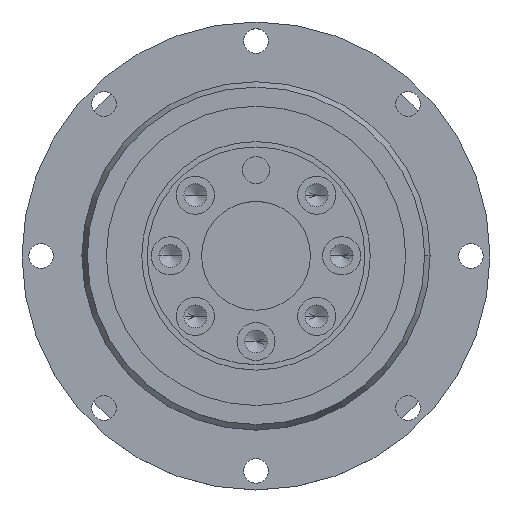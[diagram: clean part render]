
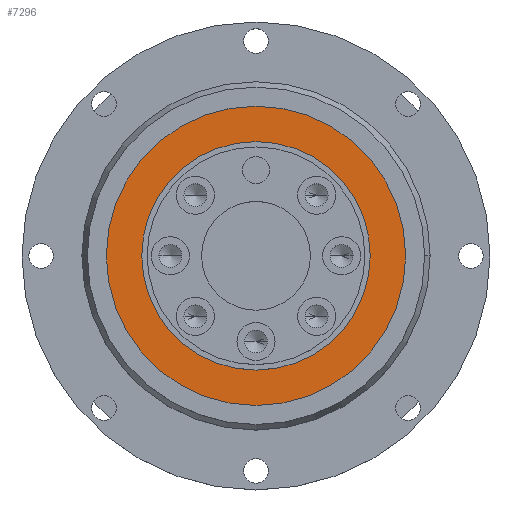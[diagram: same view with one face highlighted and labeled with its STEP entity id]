
A CAD part, top view. The second image highlights one B-rep face of the part: STEP entity #7296.
In plain terms, the highlighted planar face has unit normal (0, 0, 1).
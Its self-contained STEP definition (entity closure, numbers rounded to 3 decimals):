
#1338 = ORIENTED_EDGE ( 'NONE', *, *, #24119, .F. ) ;
#1620 = CARTESIAN_POINT ( 'NONE',  ( -27.5, 0., -0.5 ) ) ;
#1978 = CIRCLE ( 'NONE', #43564, 27.5 ) ;
#2120 = CARTESIAN_POINT ( 'NONE',  ( 0., 0., -0.5 ) ) ;
#4392 = CARTESIAN_POINT ( 'NONE',  ( 0., 0., -0.5 ) ) ;
#6081 = DIRECTION ( 'NONE',  ( -1., 0., 0. ) ) ;
#6959 = FACE_BOUND ( 'NONE', #26988, .T. ) ;
#6968 = FACE_OUTER_BOUND ( 'NONE', #10278, .T. ) ;
#7282 = AXIS2_PLACEMENT_3D ( 'NONE', #2120, #29580, #6081 ) ;
#7296 = ADVANCED_FACE ( 'NONE', ( #6959, #6968 ), #48372, .F. ) ;
#7765 = CIRCLE ( 'NONE', #43588, 27.5 ) ;
#8400 = DIRECTION ( 'NONE',  ( 1., 0., 0. ) ) ;
#8401 = CARTESIAN_POINT ( 'NONE',  ( 0., 0., -0.5 ) ) ;
#9834 = EDGE_CURVE ( 'NONE', #44700, #48965, #39281, .T. ) ;
#10054 = AXIS2_PLACEMENT_3D ( 'NONE', #24530, #24489, #24438 ) ;
#10278 = EDGE_LOOP ( 'NONE', ( #26606, #39338 ) ) ;
#12313 = DIRECTION ( 'NONE',  ( 1., 0., 0. ) ) ;
#16469 = CARTESIAN_POINT ( 'NONE',  ( 27.5, 0., -0.5 ) ) ;
#22567 = CARTESIAN_POINT ( 'NONE',  ( 21., 0., -0.5 ) ) ;
#24119 = EDGE_CURVE ( 'NONE', #48965, #44700, #43174, .T. ) ;
#24438 = DIRECTION ( 'NONE',  ( -1., 0., 0. ) ) ;
#24489 = DIRECTION ( 'NONE',  ( 0., 0., 1. ) ) ;
#24530 = CARTESIAN_POINT ( 'NONE',  ( 0., 0., -0.5 ) ) ;
#24788 = AXIS2_PLACEMENT_3D ( 'NONE', #48627, #48325, #48312 ) ;
#26606 = ORIENTED_EDGE ( 'NONE', *, *, #29977, .T. ) ;
#26988 = EDGE_LOOP ( 'NONE', ( #1338, #27135 ) ) ;
#27135 = ORIENTED_EDGE ( 'NONE', *, *, #9834, .F. ) ;
#29580 = DIRECTION ( 'NONE',  ( 0., 0., 1. ) ) ;
#29977 = EDGE_CURVE ( 'NONE', #35696, #30500, #1978, .T. ) ;
#30500 = VERTEX_POINT ( 'NONE', #1620 ) ;
#31739 = CARTESIAN_POINT ( 'NONE',  ( -21., 0., -0.5 ) ) ;
#31792 = DIRECTION ( 'NONE',  ( 0., 0., 1. ) ) ;
#35619 = DIRECTION ( 'NONE',  ( 0., 0., 1. ) ) ;
#35696 = VERTEX_POINT ( 'NONE', #16469 ) ;
#39281 = CIRCLE ( 'NONE', #10054, 21. ) ;
#39338 = ORIENTED_EDGE ( 'NONE', *, *, #41692, .T. ) ;
#41692 = EDGE_CURVE ( 'NONE', #30500, #35696, #7765, .T. ) ;
#43174 = CIRCLE ( 'NONE', #7282, 21. ) ;
#43564 = AXIS2_PLACEMENT_3D ( 'NONE', #8401, #35619, #12313 ) ;
#43588 = AXIS2_PLACEMENT_3D ( 'NONE', #4392, #31792, #8400 ) ;
#44700 = VERTEX_POINT ( 'NONE', #22567 ) ;
#48312 = DIRECTION ( 'NONE',  ( -1., 0., 0. ) ) ;
#48325 = DIRECTION ( 'NONE',  ( 0., 0., -1. ) ) ;
#48372 = PLANE ( 'NONE',  #24788 ) ;
#48627 = CARTESIAN_POINT ( 'NONE',  ( 0., 27.5, -0.5 ) ) ;
#48965 = VERTEX_POINT ( 'NONE', #31739 ) ;
